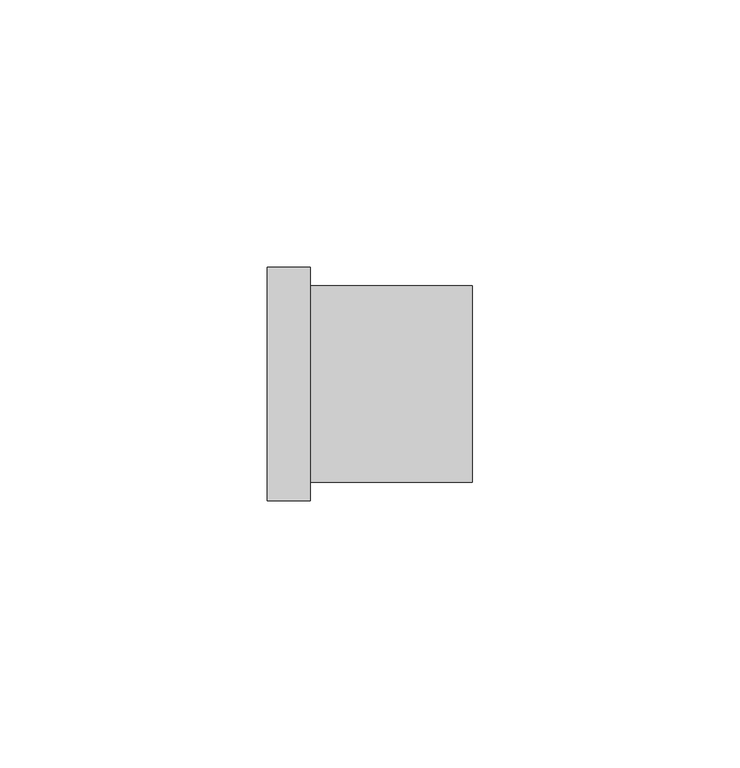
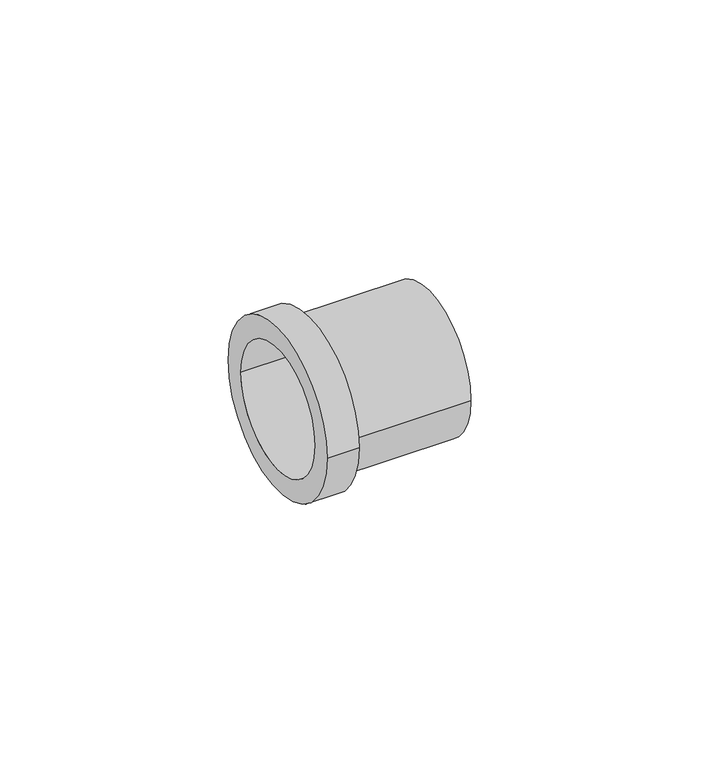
"""IFC4 building model written with IfcOpenShell, lengths in millimetres: pipe fitting geometry, FASTLOC_Sleeve outside : FSL S O DN1."""

from ifc_helpers import new_model, si_unit, frame, origin, place, context, project, spatial, polyline, circle_curve, source, transform, mapped, element, save
from ifc_brep_helpers import plane_surface, cylinder_surface, revolved_surface, advanced_brep


def pipe_fitting_c7c0347b(model_context):
    return source(origin(), model_context, "Body", "AdvancedBrep", [
        advanced_brep(
        [(8.0, 21.8, 0.0), (8.0, -21.8, 0.0), (0.0, -21.8, 0.0), (0.0, 21.8, 0.0), (38.3, 18.35, 0.0), (38.3, -18.35, 0.0), (8.0, -18.35, 0.0), (8.0, 18.35, 0.0), (0.0, 16.2, 0.0), (0.0, -16.2, 0.0), (38.3, -16.2, 0.0), (38.3, 16.2, 0.0)],
        [
            (0, 1, circle_curve(frame((8.0, 0.0, 0.0), z_axis=(-1.0, 0.0, 0.0), x_axis=(0.0, -1.0, 0.0)), 21.8)),
            (1, 2),
            (2, 3, circle_curve(frame((0.0, 0.0, 0.0), z_axis=(1.0, 0.0, 0.0), x_axis=(0.0, -1.0, 0.0)), 21.8)),
            (3, 0),
            (4, 5, circle_curve(frame((38.3, 0.0, 0.0), z_axis=(-1.0, 0.0, 0.0), x_axis=(0.0, -1.0, 0.0)), 18.35)),
            (5, 6),
            (6, 7, circle_curve(frame((8.0, 0.0, 0.0), z_axis=(1.0, 0.0, 0.0), x_axis=(0.0, -1.0, 0.0)), 18.35)),
            (7, 4),
            (8, 9, circle_curve(frame((0.0, 0.0, 0.0), z_axis=(-1.0, 0.0, 0.0), x_axis=(0.0, -1.0, 0.0)), 16.2)),
            (9, 10),
            (10, 11, circle_curve(frame((38.3, 0.0, 0.0), z_axis=(1.0, 0.0, 0.0), x_axis=(0.0, -1.0, 0.0)), 16.2)),
            (11, 8),
            (1, 0, circle_curve(frame((8.0, 0.0, 0.0), z_axis=(-1.0, 0.0, 0.0), x_axis=(0.0, 1.0, 0.0)), 21.8)),
            (3, 2, circle_curve(frame((0.0, 0.0, 0.0), z_axis=(1.0, 0.0, 0.0), x_axis=(0.0, 1.0, 0.0)), 21.8)),
            (6, 7, circle_curve(frame((8.0, 0.0, 0.0), z_axis=(-1.0, 0.0, 0.0), x_axis=(0.0, 1.0, 0.0)), 18.35)),
            (5, 4, circle_curve(frame((38.3, 0.0, 0.0), z_axis=(-1.0, 0.0, 0.0), x_axis=(0.0, 1.0, 0.0)), 18.35)),
            (10, 11, circle_curve(frame((38.3, 0.0, 0.0), z_axis=(-1.0, 0.0, 0.0), x_axis=(0.0, 1.0, 0.0)), 16.2)),
            (9, 8, circle_curve(frame((0.0, 0.0, 0.0), z_axis=(-1.0, 0.0, 0.0), x_axis=(0.0, 1.0, 0.0)), 16.2)),
        ],
        [
            cylinder_surface(frame((0.0, 0.0, 0.0), z_axis=(1.0, 0.0, 0.0), x_axis=(0.0, -1.0, 0.0)), 21.8),
            cylinder_surface(frame((0.0, 0.0, 0.0), z_axis=(1.0, 0.0, 0.0), x_axis=(0.0, -1.0, 0.0)), 18.35),
            revolved_surface(polyline([(38.3, -16.2, 0.0), (0.0, -16.2, 0.0)]), (0.0, 0.0, 0.0), (1.0, 0.0, 0.0)),
            cylinder_surface(frame((0.0, 0.0, 0.0), z_axis=(1.0, 0.0, 0.0), x_axis=(0.0, 1.0, 0.0)), 21.8),
            plane_surface(frame((8.0, 0.0, 0.0), z_axis=(1.0, 0.0, 0.0), x_axis=(0.0, 1.0, 0.0))),
            cylinder_surface(frame((0.0, 0.0, 0.0), z_axis=(1.0, 0.0, 0.0), x_axis=(0.0, 1.0, 0.0)), 18.35),
            plane_surface(frame((38.3, 0.0, 0.0), z_axis=(1.0, 0.0, 0.0), x_axis=(0.0, 1.0, 0.0))),
            revolved_surface(polyline([(38.3, 16.2, 0.0), (0.0, 16.2, 0.0)]), (0.0, 0.0, 0.0), (1.0, 0.0, 0.0)),
            plane_surface(frame((0.0, 0.0, 0.0), z_axis=(-1.0, 0.0, 0.0), x_axis=(0.0, 1.0, 0.0))),
        ],
        [
            (0, [[1, 2, 3, 4]]),
            (1, [[5, 6, 7, 8]]),
            (2, [[9, 10, 11, 12]]),
            (3, [[13, -4, 14, -2]]),
            (4, [[-13, -1], [15, -7]]),
            (5, [[16, -8, -15, -6]]),
            (6, [[-16, -5], [17, -11]]),
            (7, [[18, -12, -17, -10]]),
            (8, [[-14, -3], [-18, -9]]),
        ],
    ),
    ])


if __name__ == "__main__":
    model = new_model("IFC4")
    model_context = context("Model", 3, world=origin())
    ifc_project = project(units=[si_unit("LENGTHUNIT", "METRE", prefix="MILLI")], contexts=[model_context])
    site = spatial("IfcSite", under=ifc_project)
    building = spatial("IfcBuilding", under=site)
    placement = place(None, origin())
    pipe_fitting_shape = pipe_fitting_c7c0347b(model_context)
    element("IfcPipeFitting", 1, ObjectType="FASTLOC_Sleeve outside : FSL S O DN1", at=placement, inside=building, context=model_context, shape_type="MappedRepresentation", body=[
        mapped(pipe_fitting_shape, transform((0.0, 0.0, 0.0), x_axis=(1.0, 0.0, 0.0), y_axis=(0.0, 1.0, 0.0), z_axis=(0.0, 0.0, 1.0))),
    ])
    save(model, "model.ifc")
